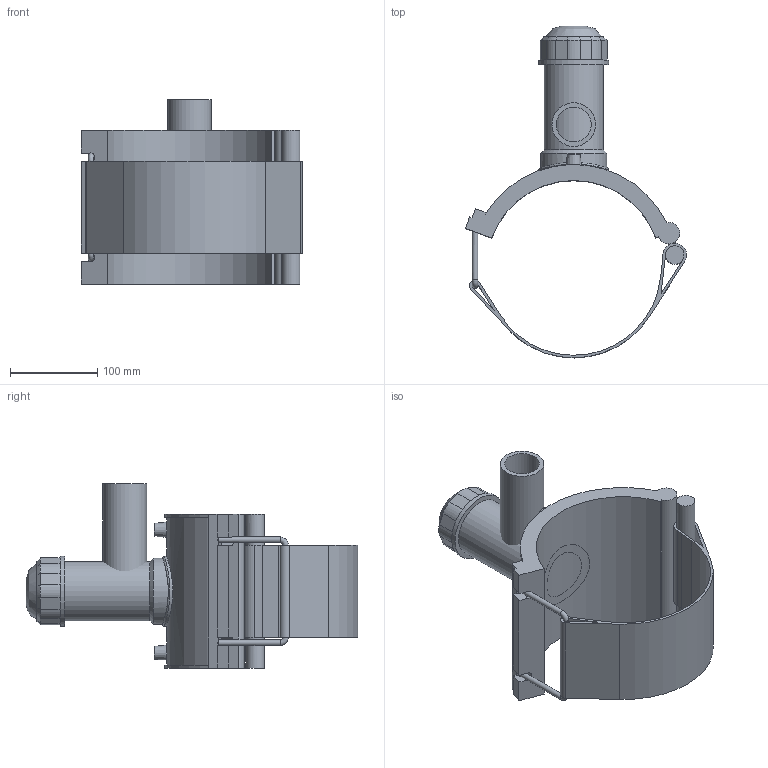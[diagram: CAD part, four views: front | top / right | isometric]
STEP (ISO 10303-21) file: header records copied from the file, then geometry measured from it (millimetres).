
FILE_DESCRIPTION(/* description */ (''),/* implementation_level */ '2;1');
FILE_NAME(/* name */ 'C:\Dropbox\KIMPROJECTS-Inventor 2019\99-16-3568-Processing\ElectroFusion Fittings\4963P4\stp\4963P4200050.stp',/* time_stamp */ '2022-03-17T11:31:55+02:00',/* author */ ('KIM'),/* organization */ (''),/* preprocessor_version */ 'ST-DEVELOPER v17.2',/* originating_system */ 'Autodesk Inventor 2019',/* authorisation */ '');
FILE_SCHEMA (('AUTOMOTIVE_DESIGN { 1 0 10303 214 3 1 1 }'));
Length unit declared in the file: millimetre
Products named in the file (1): 4963P4200050
Bounding box: 253.17 x 380 x 211 mm (x, y, z)
Volume: 1571856.5 mm3; surface area: 347625.8 mm2
Topology: 3 solids, 3 shells, 122 faces, 309 edges, 201 vertices
Faces by surface type: plane 69, cylinder 38, cone 11, torus 2, bspline 2
Full cylindrical faces by diameter (mm): 4 x2, 6.4 x2, 10 x2, 21.077 x1, 40 x1, 50 x1, 56 x1, 68 x1, 76 x1, 80 x2
Entity records: 4173 total; most frequent: CARTESIAN_POINT 1087, DIRECTION 653, ORIENTED_EDGE 620, EDGE_CURVE 310, AXIS2_PLACEMENT_3D 237, VERTEX_POINT 201, LINE 179, VECTOR 179
